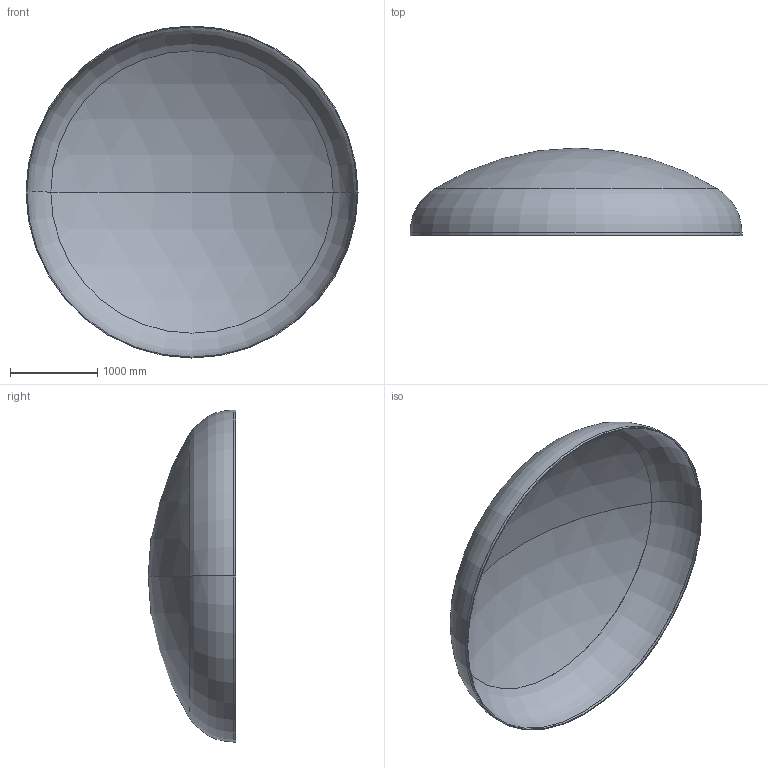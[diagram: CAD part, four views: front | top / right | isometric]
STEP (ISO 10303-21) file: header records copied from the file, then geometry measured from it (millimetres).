
FILE_DESCRIPTION (( 'STEP AP203' ), '1' );
FILE_NAME ('DIN 28013 Korbbogenform_-_Boden DIN 28013 - 3800 x 30 - I - s=10.step', '2016-07-01T21:01:33', ( '' ), ( '' ), 'SwSTEP 2.0', 'SolidWorks 2013', '' );
FILE_SCHEMA (( 'CONFIG_CONTROL_DESIGN' ));
Length unit declared in the file: millimetre
Products named in the file (1): DIN 28013 Korbbogenform_-_Boden DIN 28013 - 3800 x 30 - I - s=10
Bounding box: 3800 x 1000.58 x 3800 mm (x, y, z)
Volume: 160101516.2 mm3; surface area: 32139565.9 mm2
Topology: 1 solids, 1 shells, 13 faces, 24 edges, 14 vertices
Faces by surface type: torus 4, cylinder 4, sphere 4, plane 1
Entity records: 407 total; most frequent: DIRECTION 72, CARTESIAN_POINT 52, ORIENTED_EDGE 48, AXIS2_PLACEMENT_3D 34, EDGE_CURVE 24, CIRCLE 20, VERTEX_POINT 14, EDGE_LOOP 14
